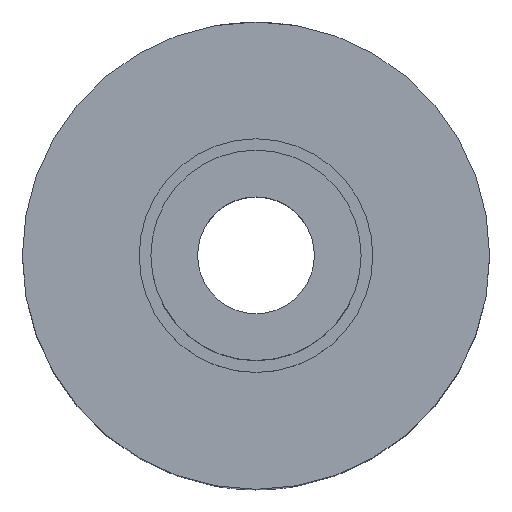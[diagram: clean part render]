
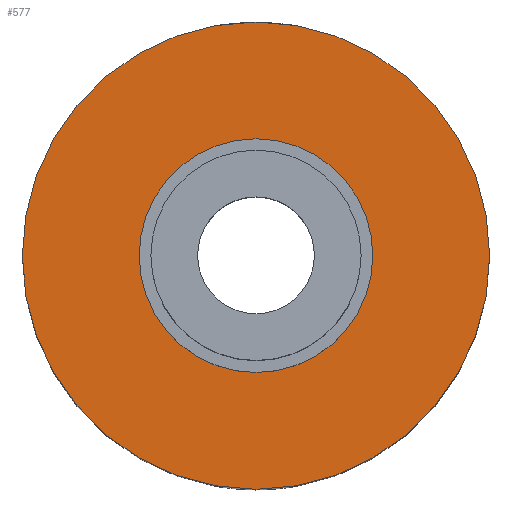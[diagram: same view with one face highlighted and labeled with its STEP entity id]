
A CAD part, top view. The second image highlights one B-rep face of the part: STEP entity #577.
In plain terms, the highlighted planar face has unit normal (0, 0, 1).
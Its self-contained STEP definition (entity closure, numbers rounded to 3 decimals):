
#7 = DIRECTION ( 'NONE',  ( 0., 0., 1. ) ) ;
#13 = AXIS2_PLACEMENT_3D ( 'NONE', #414, #538, #297 ) ;
#41 = EDGE_CURVE ( 'NONE', #532, #558, #162, .T. ) ;
#109 = ORIENTED_EDGE ( 'NONE', *, *, #634, .T. ) ;
#124 = EDGE_LOOP ( 'NONE', ( #682, #360 ) ) ;
#132 = DIRECTION ( 'NONE',  ( 1., 0., 0. ) ) ;
#154 = DIRECTION ( 'NONE',  ( 0., 0., 1. ) ) ;
#159 = CARTESIAN_POINT ( 'NONE',  ( 10., 0., 16. ) ) ;
#162 = CIRCLE ( 'NONE', #611, 5. ) ;
#181 = EDGE_CURVE ( 'NONE', #541, #403, #556, .T. ) ;
#186 = AXIS2_PLACEMENT_3D ( 'NONE', #672, #7, #132 ) ;
#193 = DIRECTION ( 'NONE',  ( 0., 0., 1. ) ) ;
#196 = EDGE_CURVE ( 'NONE', #558, #532, #598, .T. ) ;
#250 = DIRECTION ( 'NONE',  ( 0., 0., 1. ) ) ;
#295 = DIRECTION ( 'NONE',  ( 1., 0., 0. ) ) ;
#297 = DIRECTION ( 'NONE',  ( 1., 0., 0. ) ) ;
#307 = DIRECTION ( 'NONE',  ( 1., 0., 0. ) ) ;
#351 = EDGE_LOOP ( 'NONE', ( #109, #412 ) ) ;
#360 = ORIENTED_EDGE ( 'NONE', *, *, #196, .F. ) ;
#403 = VERTEX_POINT ( 'NONE', #697 ) ;
#412 = ORIENTED_EDGE ( 'NONE', *, *, #181, .T. ) ;
#414 = CARTESIAN_POINT ( 'NONE',  ( 0., 0., 16. ) ) ;
#443 = CARTESIAN_POINT ( 'NONE',  ( 5., 0., 16. ) ) ;
#480 = FACE_OUTER_BOUND ( 'NONE', #351, .T. ) ;
#489 = CARTESIAN_POINT ( 'NONE',  ( 0., 0., 16. ) ) ;
#493 = CARTESIAN_POINT ( 'NONE',  ( -5., 0., 16. ) ) ;
#525 = DIRECTION ( 'NONE',  ( 1., 0., 0. ) ) ;
#532 = VERTEX_POINT ( 'NONE', #443 ) ;
#538 = DIRECTION ( 'NONE',  ( 0., 0., 1. ) ) ;
#541 = VERTEX_POINT ( 'NONE', #159 ) ;
#556 = CIRCLE ( 'NONE', #586, 10. ) ;
#558 = VERTEX_POINT ( 'NONE', #493 ) ;
#577 = ADVANCED_FACE ( 'NONE', ( #730, #480 ), #733, .T. ) ;
#586 = AXIS2_PLACEMENT_3D ( 'NONE', #690, #154, #295 ) ;
#598 = CIRCLE ( 'NONE', #186, 5. ) ;
#611 = AXIS2_PLACEMENT_3D ( 'NONE', #489, #250, #307 ) ;
#634 = EDGE_CURVE ( 'NONE', #403, #541, #734, .T. ) ;
#672 = CARTESIAN_POINT ( 'NONE',  ( 0., 0., 16. ) ) ;
#682 = ORIENTED_EDGE ( 'NONE', *, *, #41, .F. ) ;
#690 = CARTESIAN_POINT ( 'NONE',  ( 0., 0., 16. ) ) ;
#697 = CARTESIAN_POINT ( 'NONE',  ( -10., 0., 16. ) ) ;
#706 = AXIS2_PLACEMENT_3D ( 'NONE', #759, #193, #525 ) ;
#730 = FACE_BOUND ( 'NONE', #124, .T. ) ;
#733 = PLANE ( 'NONE',  #706 ) ;
#734 = CIRCLE ( 'NONE', #13, 10. ) ;
#759 = CARTESIAN_POINT ( 'NONE',  ( 0., 0., 16. ) ) ;
